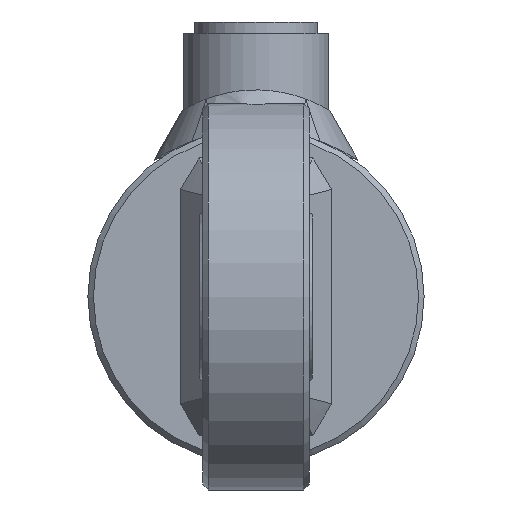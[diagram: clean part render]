
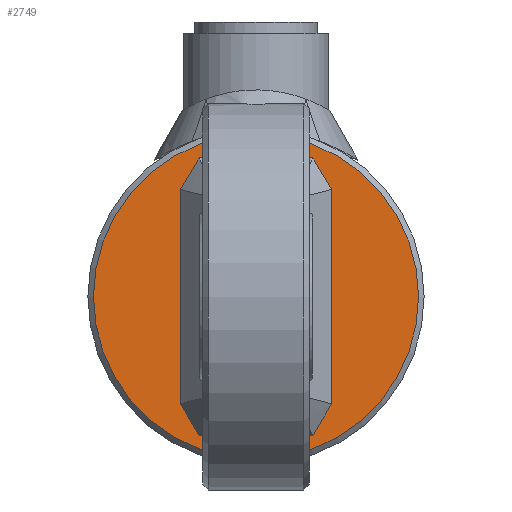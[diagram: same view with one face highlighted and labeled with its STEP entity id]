
A CAD part, left-side view. The second image highlights one B-rep face of the part: STEP entity #2749.
In plain terms, the highlighted planar face has unit normal (-1, 0, 0).
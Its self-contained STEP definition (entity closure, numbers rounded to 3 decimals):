
#2749 = ADVANCED_FACE( '', ( #9782 ), #9783, .T. );
#9782 = FACE_OUTER_BOUND( '', #11634, .T. );
#9783 = PLANE( '', #11635 );
#11634 = EDGE_LOOP( '', ( #12466 ) );
#11635 = AXIS2_PLACEMENT_3D( '', #12467, #12468, #12469 );
#12466 = ORIENTED_EDGE( '', *, *, #13675, .T. );
#12467 = CARTESIAN_POINT( '', ( -10., 0., 0. ) );
#12468 = DIRECTION( '', ( -1., 0., 0. ) );
#12469 = DIRECTION( '', ( 0., -1., 0. ) );
#13675 = EDGE_CURVE( '', #17479, #17479, #17480, .T. );
#17479 = VERTEX_POINT( '', #18112 );
#17480 = CIRCLE( '', #18113, 29. );
#18112 = CARTESIAN_POINT( '', ( -10., -29., 0. ) );
#18113 = AXIS2_PLACEMENT_3D( '', #18224, #18225, #18226 );
#18224 = CARTESIAN_POINT( '', ( -10., 0., 0. ) );
#18225 = DIRECTION( '', ( -1., 0., 0. ) );
#18226 = DIRECTION( '', ( 0., -1., 0. ) );
